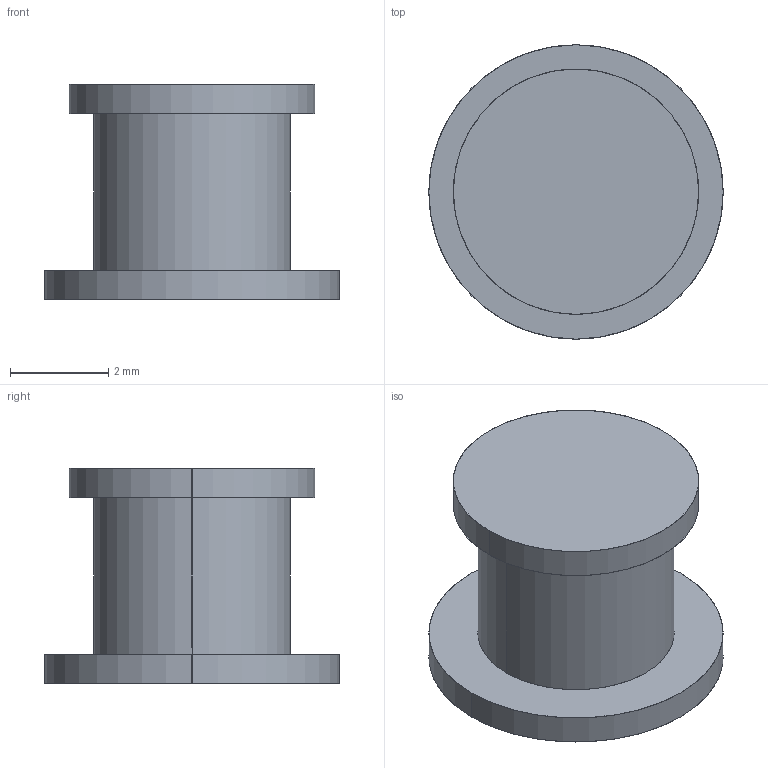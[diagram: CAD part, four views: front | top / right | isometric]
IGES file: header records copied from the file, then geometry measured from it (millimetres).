
Start section: SolidWorks IGES FILE using analytic representation for surfaces
Global section: file name: C:\Documents and Settings\brechard\Bureau\GE 85\40.100.00.IGS; native system: SolidWorks 2001Plus by SolidWorks Corporation; preprocessor: Version 5.3; author: brechard; date: 050126.112924; units: millimetre
Bounding box: 6 x 6 x 4.4 mm (x, y, z)
Surface area: 131.6 mm2 (no closed solid volume)
Topology: 0 solids, 0 shells, 10 faces, 216 edges, 216 vertices
Faces by surface type: revolution 6, bspline 4
